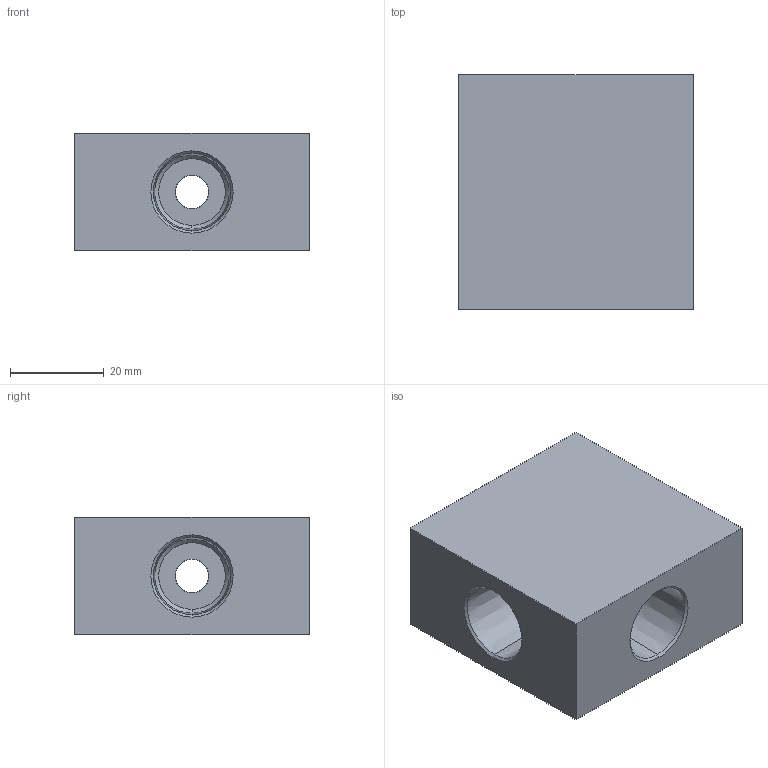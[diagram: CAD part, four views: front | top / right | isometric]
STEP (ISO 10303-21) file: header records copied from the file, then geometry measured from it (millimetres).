
FILE_DESCRIPTION (( 'STEP AP203' ), '1' );
FILE_NAME ('FTPCS06.STEP', '2026-06-26T01:09:11', ( 'USER' ), ( '' ), 'SwSTEP 2.0', 'SolidWorks 2023', '' );
FILE_SCHEMA (( 'CONFIG_CONTROL_DESIGN' ));
Length unit declared in the file: millimetre
Products named in the file (1): FTPCS06
Bounding box: 50 x 50 x 25 mm (x, y, z)
Volume: 49145.2 mm3; surface area: 13322 mm2
Topology: 1 solids, 1 shells, 50 faces, 104 edges, 58 vertices
Faces by surface type: cone 24, cylinder 16, plane 10
Entity records: 1393 total; most frequent: DIRECTION 250, CARTESIAN_POINT 225, ORIENTED_EDGE 208, EDGE_CURVE 104, AXIS2_PLACEMENT_3D 99, VERTEX_POINT 58, EDGE_LOOP 58, VECTOR 52
